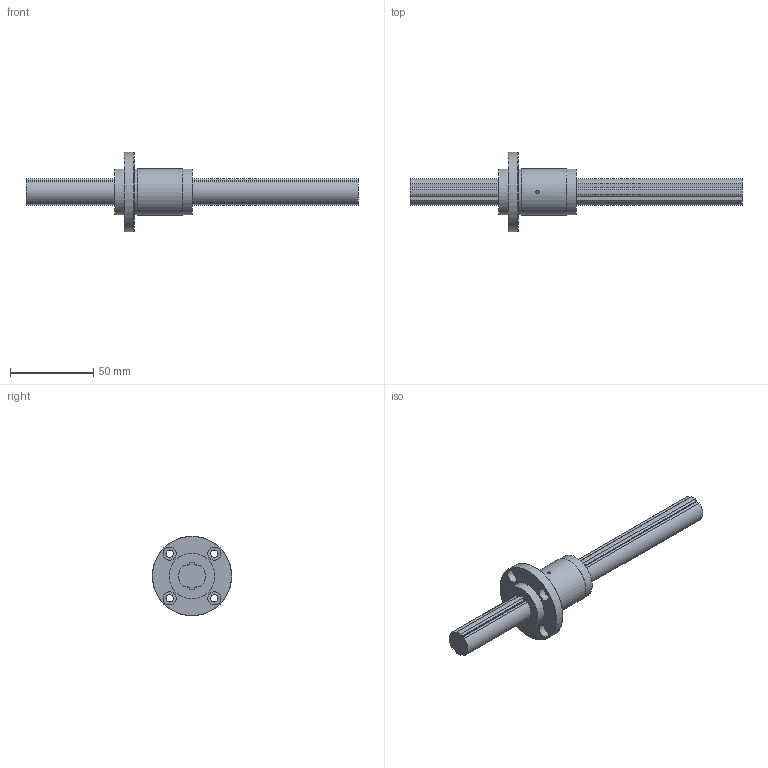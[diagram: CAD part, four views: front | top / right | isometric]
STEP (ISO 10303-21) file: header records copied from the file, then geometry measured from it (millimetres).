
FILE_DESCRIPTION(/* description */ ('STEP AP214'),/* implementation_level */ '2;1');
FILE_NAME(/* name */ 'LF16X+200L(00)',/* time_stamp */ '2024-09-05T14:46:58+02:00',/* author */ ('License CC BY-ND 4.0'),/* organization */ ('CADENAS'),/* preprocessor_version */ 'ST-DEVELOPER v19.3',/* originating_system */ 'PARTsolutions',/* authorisation */ ' ');
FILE_SCHEMA (('AUTOMOTIVE_DESIGN {1 0 10303 214 3 1 1}'));
Length unit declared in the file: millimetre
Products named in the file (3): LF16X+200L(00); 1LT16X 200Shaft; 1LF16X Cylindar
Assembly tree (2 placements, depth 2):
  LF16X+200L(00)
    1LT16X 200Shaft
    1LF16X Cylindar
Bounding box: 200 x 48 x 48 mm (x, y, z)
Volume: 63966.9 mm3; surface area: 21300.8 mm2
Topology: 2 solids, 2 shells, 77 faces, 196 edges, 129 vertices
Faces by surface type: cylinder 47, plane 27, cone 3
Full cylindrical faces by diameter (mm): 2 x2, 4.5 x4, 8 x4, 27.6 x3, 28 x1, 48 x1
Entity records: 2393 total; most frequent: DIRECTION 424, CARTESIAN_POINT 424, ORIENTED_EDGE 352, EDGE_CURVE 176, AXIS2_PLACEMENT_3D 172, VERTEX_POINT 128, EDGE_LOOP 116, FACE_BOUND 116
